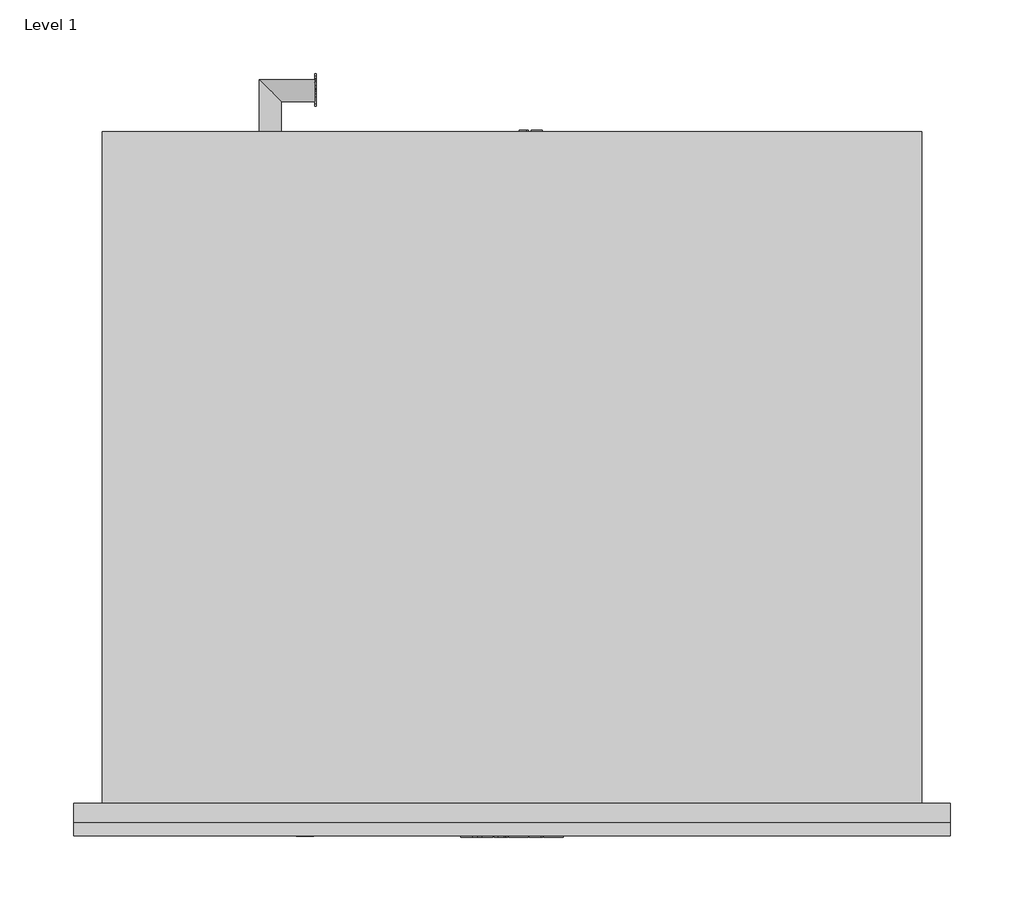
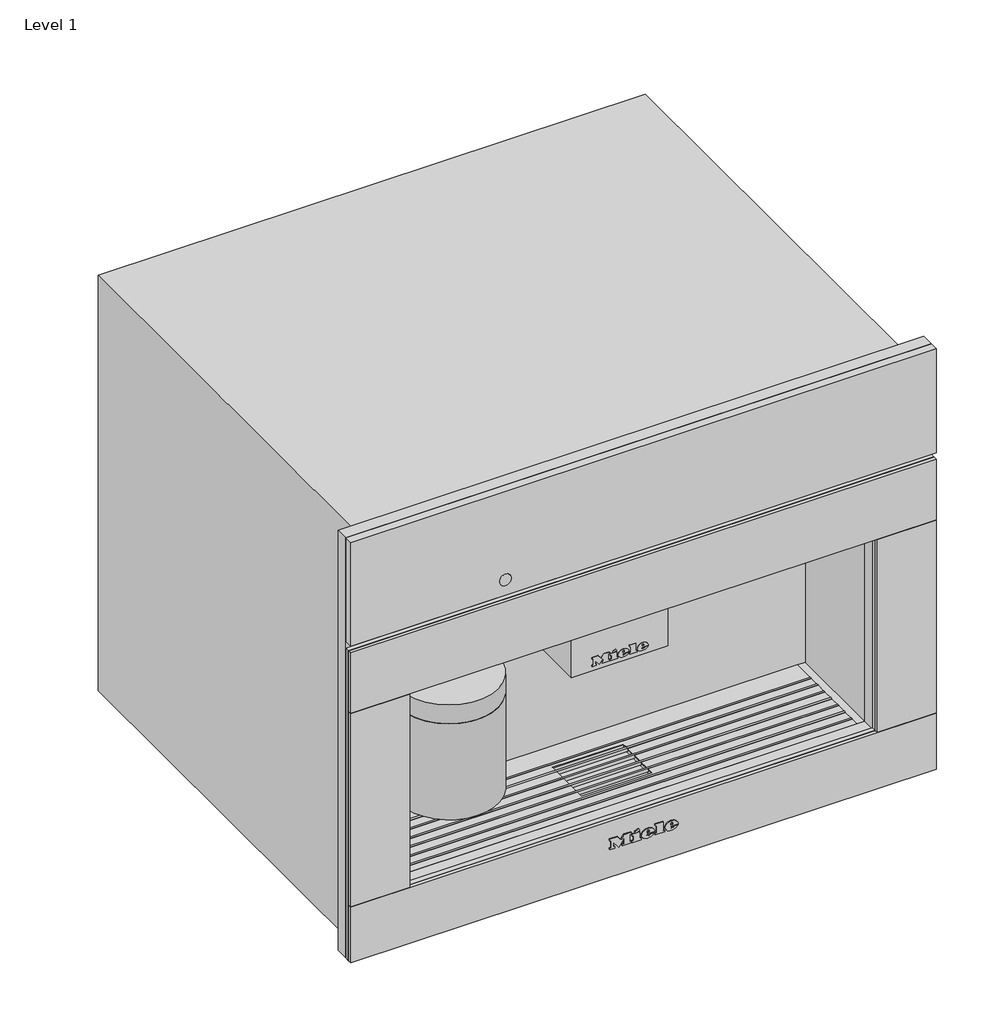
# One storey: 1 proxy.
"""IFC4 building model written with IfcOpenShell, lengths in millimetres."""

from ifc_helpers import new_model, si_unit, origin, place, context, project, spatial, transform, mapped, element, save
from components import specialty_equipment_d28afc98

model = new_model("IFC4")

# Units and contexts
model_context = context("Model", 3, world=origin())
ifc_project = project(units=[si_unit("LENGTHUNIT", "METRE", prefix="MILLI")], contexts=[model_context])

# Site, building, storey
site = spatial("IfcSite", under=ifc_project)
building = spatial("IfcBuilding", under=site)
storey = spatial("IfcBuildingStorey", under=building, Name="Level 1", Elevation=0.0)

# Proxy
placement = place(None, origin())
specialty_equipment_shape = specialty_equipment_d28afc98(model_context)
element("IfcBuildingElementProxy", 1, Name="11164840_CZ_CVA7845_GRGR : 29784530_CZ_11164840_CVA7845_GRGR", ObjectType="11164840_CZ_CVA7845_GRGR : 29784530_CZ_11164840_CVA7845_GRGR", at=placement, inside=storey, context=model_context, shape_type="MappedRepresentation", body=[
    mapped(specialty_equipment_shape, transform((0.0, 0.0, 0.0), x_axis=(1.0, 0.0, 0.0), y_axis=(0.0, 1.0, 0.0), z_axis=(0.0, 0.0, 1.0))),
])

save(model, "model.ifc")
